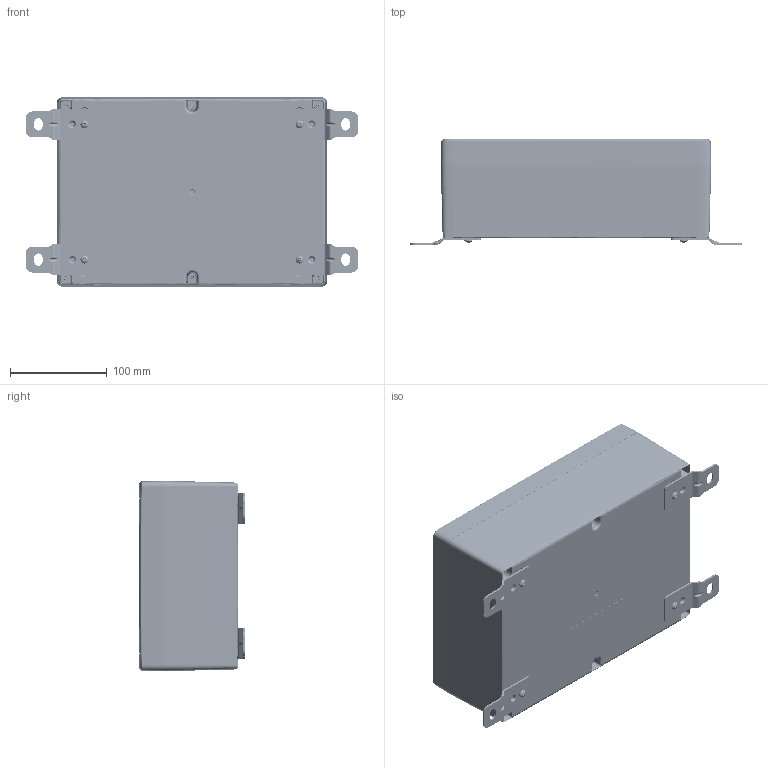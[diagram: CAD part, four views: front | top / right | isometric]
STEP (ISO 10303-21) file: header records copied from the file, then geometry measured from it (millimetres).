
FILE_DESCRIPTION (( 'STEP AP214' ), '1' );
FILE_NAME ('HN-88-21.STEP', '2026-02-24T16:25:00', ( '' ), ( '' ), 'SwSTEP 2.0', 'SolidWorks 2025', '' );
FILE_SCHEMA (( 'AUTOMOTIVE_DESIGN' ));
Length unit declared in the file: inch
Products named in the file (11): HN-88CG_HN-88CG-01; HN-88G_default; INSERTS-3_INSERTS-3; HN-88BN_HN-88BPN-01; SCREWS-054_DEFAULT; SCREWS-xxx_#8-16 PLASTITE, PAN, PHILLIPS_SCREWS-044; HN-88C_HN-88C-01; ZH-91F-01_ZH-91F-01; HN-88-21; LABEL-107-01; HN-88B_HN-88BP-01
Assembly tree (26 placements, depth 3):
  HN-88-21
    HN-88B_HN-88BP-01
      HN-88BN_HN-88BPN-01
      INSERTS-3_INSERTS-3  x6
      LABEL-107-01
    HN-88CG_HN-88CG-01
      HN-88C_HN-88C-01
      HN-88G_default
    SCREWS-054_DEFAULT  x6
    ZH-91F-01_ZH-91F-01  x4
    SCREWS-xxx_#8-16 PLASTITE, PAN, PHILLIPS_SCREWS-044  x4
Bounding box: 342.9 x 109.02 x 196.85 mm (x, y, z)
Volume: 754648.6 mm3; surface area: 476103.4 mm2
Topology: 23 solids, 25 shells, 6531 faces, 16050 edges, 9559 vertices
Faces by surface type: torus 1640, cone 1578, cylinder 1150, plane 1031, bspline 1022, sphere 110
Entity records: 200384 total; most frequent: CARTESIAN_POINT 86421, ORIENTED_EDGE 25358, DIRECTION 22543, EDGE_CURVE 12682, AXIS2_PLACEMENT_3D 9887, VERTEX_POINT 7612, CIRCLE 5504, EDGE_LOOP 5281
